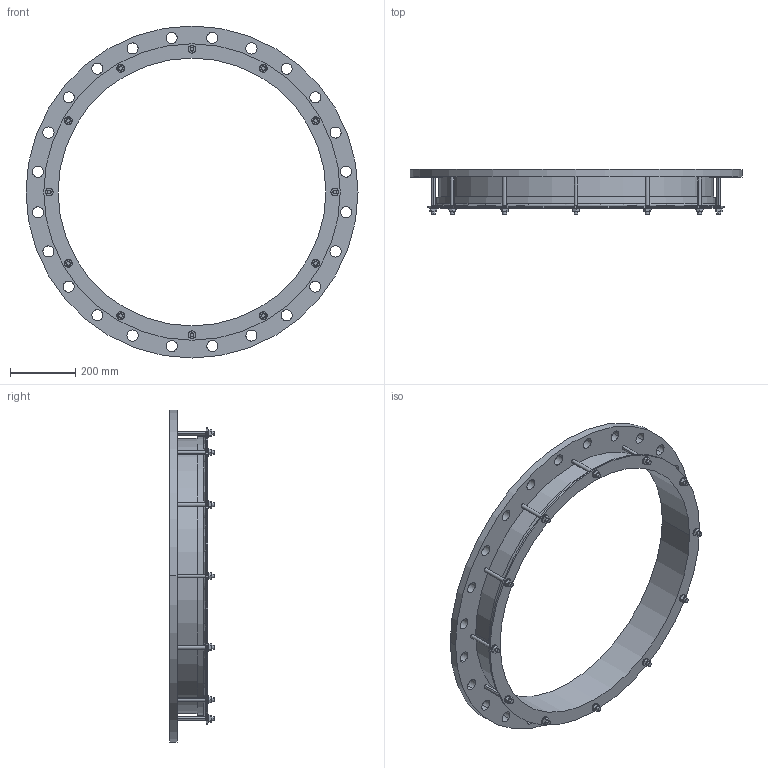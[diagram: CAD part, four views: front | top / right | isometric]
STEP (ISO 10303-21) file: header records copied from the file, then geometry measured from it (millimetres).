
FILE_DESCRIPTION((''),'2;1');
FILE_NAME('816X800PN10','2019-01-16T',('mfairey'),('Glynwed Pipe Systems'),'CREO PARAMETRIC BY PTC INC, 2016130','CREO PARAMETRIC BY PTC INC, 2016130','');
FILE_SCHEMA(('CONFIG_CONTROL_DESIGN'));
Length unit declared in the file: millimetre
Products named in the file (1): 816X800PN10
Bounding box: 1015 x 137.45 x 1015 mm (x, y, z)
Volume: 9887470.3 mm3; surface area: 1418812.9 mm2
Topology: 1 solids, 1 shells, 246 faces, 650 edges, 432 vertices
Faces by surface type: cylinder 128, plane 112, cone 4, torus 2
Entity records: 8584 total; most frequent: CARTESIAN_POINT 2138, DIRECTION 1340, ORIENTED_EDGE 1300, EDGE_CURVE 650, AXIS2_PLACEMENT_3D 496, VERTEX_POINT 432, VECTOR 348, LINE 348
